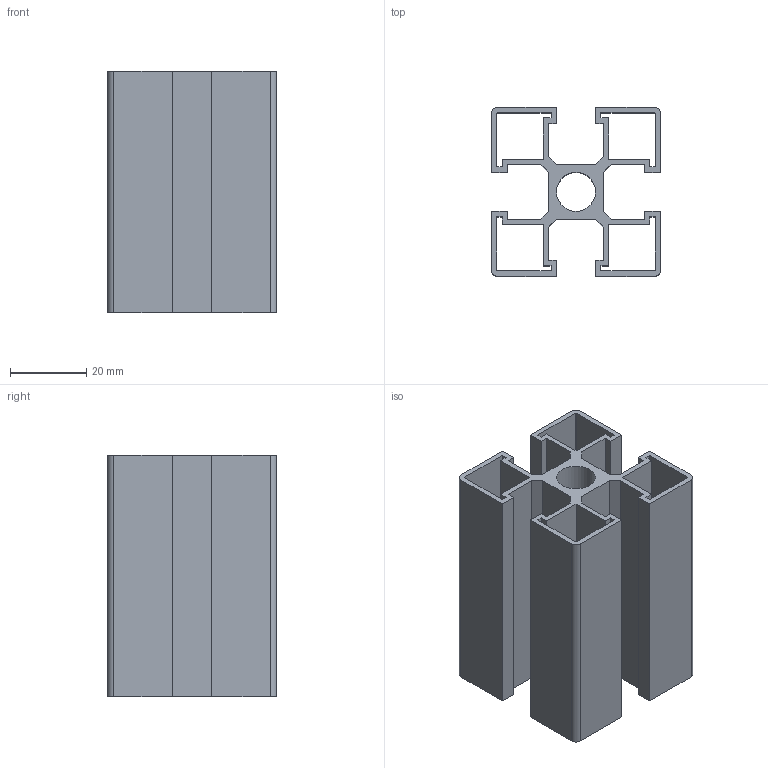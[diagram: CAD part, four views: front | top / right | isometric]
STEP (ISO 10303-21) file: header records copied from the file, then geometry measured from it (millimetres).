
FILE_DESCRIPTION(/* description */ ('Unknown'),/* implementation_level */ '2;1');
FILE_NAME(/* name */ 'CAK1924',/* time_stamp */ '2016-05-11T11:27:55-04:00',/* author */ ('Unknown'),/* organization */ ('Unknown'),/* preprocessor_version */ 'ST-DEVELOPER v16.7',/* originating_system */ 'DEX',/* authorisation */ $);
FILE_SCHEMA (('AUTOMOTIVE_DESIGN {1 0 10303 214 3 1 1}'));
Length unit declared in the file: millimetre
Products named in the file (2): CAK1924; SPC20252
Assembly tree (1 placements, depth 2):
  CAK1924
    SPC20252
Bounding box: 44.45 x 44.45 x 63.5 mm (x, y, z)
Volume: 31095 mm3; surface area: 37737.4 mm2
Topology: 1 solids, 1 shells, 87 faces, 255 edges, 170 vertices
Faces by surface type: plane 78, cylinder 9
Full cylindrical faces by diameter (mm): 10.312 x1
Entity records: 2911 total; most frequent: CARTESIAN_POINT 513, ORIENTED_EDGE 508, DIRECTION 450, EDGE_CURVE 254, LINE 236, VECTOR 236, VERTEX_POINT 170, AXIS2_PLACEMENT_3D 107
